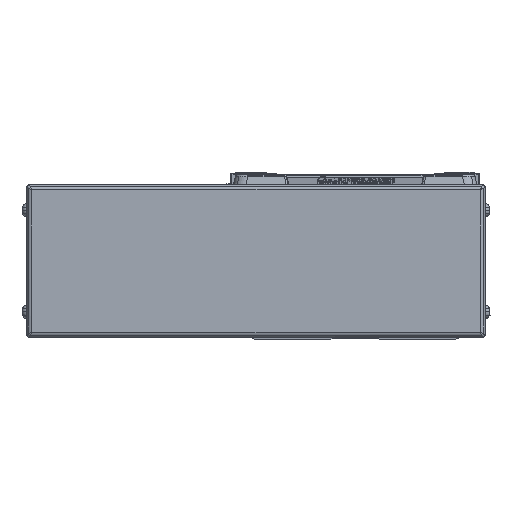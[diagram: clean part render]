
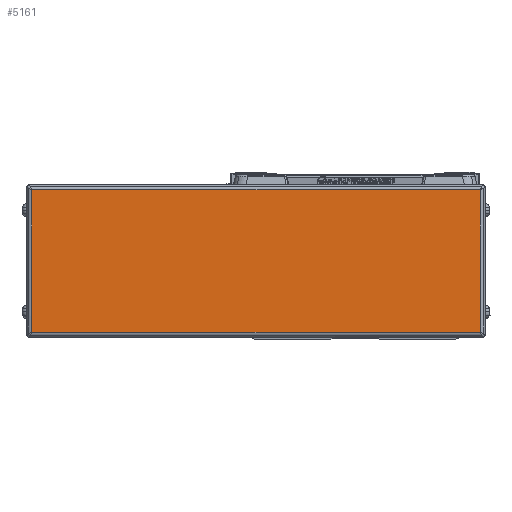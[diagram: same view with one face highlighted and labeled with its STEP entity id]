
A CAD part, left-side view. The second image highlights one B-rep face of the part: STEP entity #5161.
In plain terms, the highlighted planar face has unit normal (-1, 0, 0).
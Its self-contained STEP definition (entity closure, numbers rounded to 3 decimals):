
#5161=ADVANCED_FACE('',(#11372),#11373,.F.);
#11372=FACE_OUTER_BOUND('',#19247,.T.);
#11373=PLANE('',#19248);
#19247=EDGE_LOOP('',(#34021,#34022,#34023,#34024));
#19248=AXIS2_PLACEMENT_3D('',#34025,#34026,#34027);
#34021=ORIENTED_EDGE('',*,*,#50109,.T.);
#34022=ORIENTED_EDGE('',*,*,#46934,.T.);
#34023=ORIENTED_EDGE('',*,*,#49348,.T.);
#34024=ORIENTED_EDGE('',*,*,#49988,.T.);
#34025=CARTESIAN_POINT('',(-616.,39.,0.));
#34026=DIRECTION('',(1.0,0.,0.));
#34027=DIRECTION('',(0.,0.,1.0));
#46934=EDGE_CURVE('',#53731,#57170,#57172,.T.);
#49348=EDGE_CURVE('',#57170,#60554,#60833,.T.);
#49988=EDGE_CURVE('',#60554,#59428,#61718,.T.);
#50109=EDGE_CURVE('',#59428,#53731,#61883,.T.);
#53731=VERTEX_POINT('',#66301);
#57170=VERTEX_POINT('',#71031);
#57172=LINE('',#71033,#71034);
#59428=VERTEX_POINT('',#74137);
#60554=VERTEX_POINT('',#75767);
#60833=LINE('',#76167,#76168);
#61718=LINE('',#77420,#77421);
#61883=LINE('',#77670,#77671);
#66301=CARTESIAN_POINT('',(-616.0,127.2,28.));
#71031=CARTESIAN_POINT('',(-616.0,127.2,-28.));
#71033=CARTESIAN_POINT('',(-616.0,127.2,0.));
#71034=VECTOR('',#85252,10.0);
#74137=CARTESIAN_POINT('',(-616.,-49.2,28.));
#75767=CARTESIAN_POINT('',(-616.,-49.2,-28.));
#76167=CARTESIAN_POINT('',(-616.0,39.,-28.));
#76168=VECTOR('',#88304,10.0);
#77420=CARTESIAN_POINT('',(-616.,-49.2,0.));
#77421=VECTOR('',#89167,10.0);
#77670=CARTESIAN_POINT('',(-616.,39.,28.));
#77671=VECTOR('',#89303,10.0);
#85252=DIRECTION('',(0.,0.,-1.0));
#88304=DIRECTION('',(0.,-1.0,0.));
#89167=DIRECTION('',(0.,0.,1.0));
#89303=DIRECTION('',(0.,1.0,0.));
